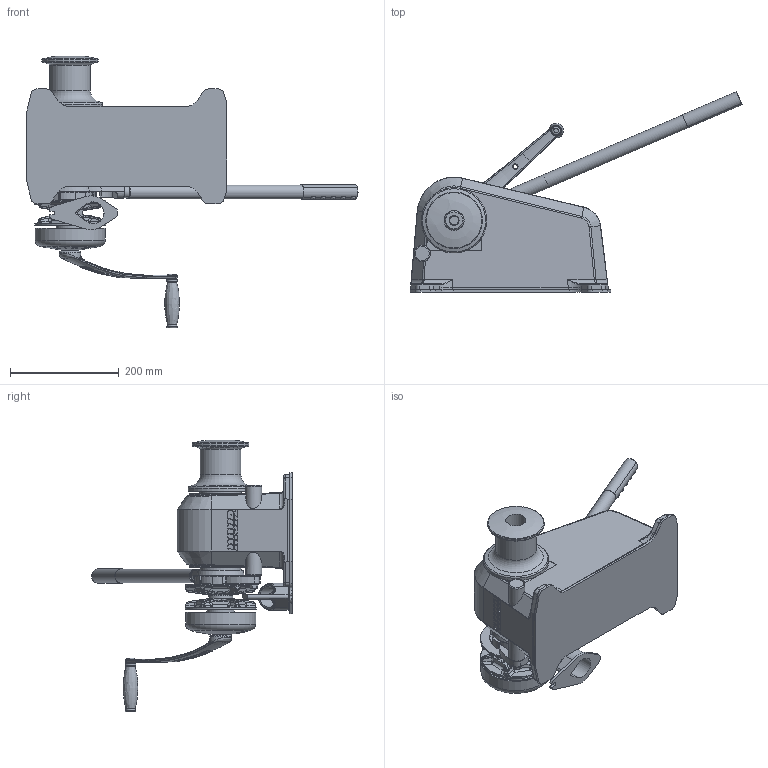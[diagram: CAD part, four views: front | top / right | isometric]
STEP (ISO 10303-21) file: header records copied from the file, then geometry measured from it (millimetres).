
FILE_DESCRIPTION(/* description */ (''),/* implementation_level */ '2;1');
FILE_NAME(/* name */ 'HR1200 - 6-8-10mm.stp',/* time_stamp */ '2025-11-28T09:54:21+11:00',/* author */ ('markus.mendgen'),/* organization */ (''),/* preprocessor_version */ 'ST-DEVELOPER v20',/* originating_system */ 'Autodesk Inventor 2025',/* authorisation */ '');
FILE_SCHEMA (('AUTOMOTIVE_DESIGN { 1 0 10303 214 3 1 1 }'));
Products named in the file (1): U001042_Simplify_1
Bounding box: 609.87 x 368.82 x 499.58 mm (x, y, z)
Volume: 10439737.1 mm3; surface area: 670018.8 mm2
Topology: 9 solids, 9 shells, 2132 faces, 5599 edges, 3505 vertices
Faces by surface type: cylinder 786, plane 590, bspline 403, torus 181, cone 105, sphere 67
Full cylindrical faces by diameter (mm): 2 x3, 7.938 x1, 8 x1, 10 x1, 12.7 x1, 13.7 x1, 17 x1, 18.644 x2, 21.4 x1, 21.5 x1, 22 x1, 25.07 x1, 25.1 x1, 25.4 x1, 27 x1, 30 x2, 35 x1, 36.05 x1, 36.2 x1, 36.6 x1, 37 x1, 40 x2, 44.2 x1, 48.05 x1, 48.4 x1, 50.8 x1, 69.82 x1, 70.6 x1, 75 x1, 76 x1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
Entity records: 85732 total; most frequent: CARTESIAN_POINT 35811, ORIENTED_EDGE 11094, DIRECTION 9676, EDGE_CURVE 5547, AXIS2_PLACEMENT_3D 3823, VERTEX_POINT 3505, EDGE_LOOP 2222, FACE_OUTER_BOUND 2132
